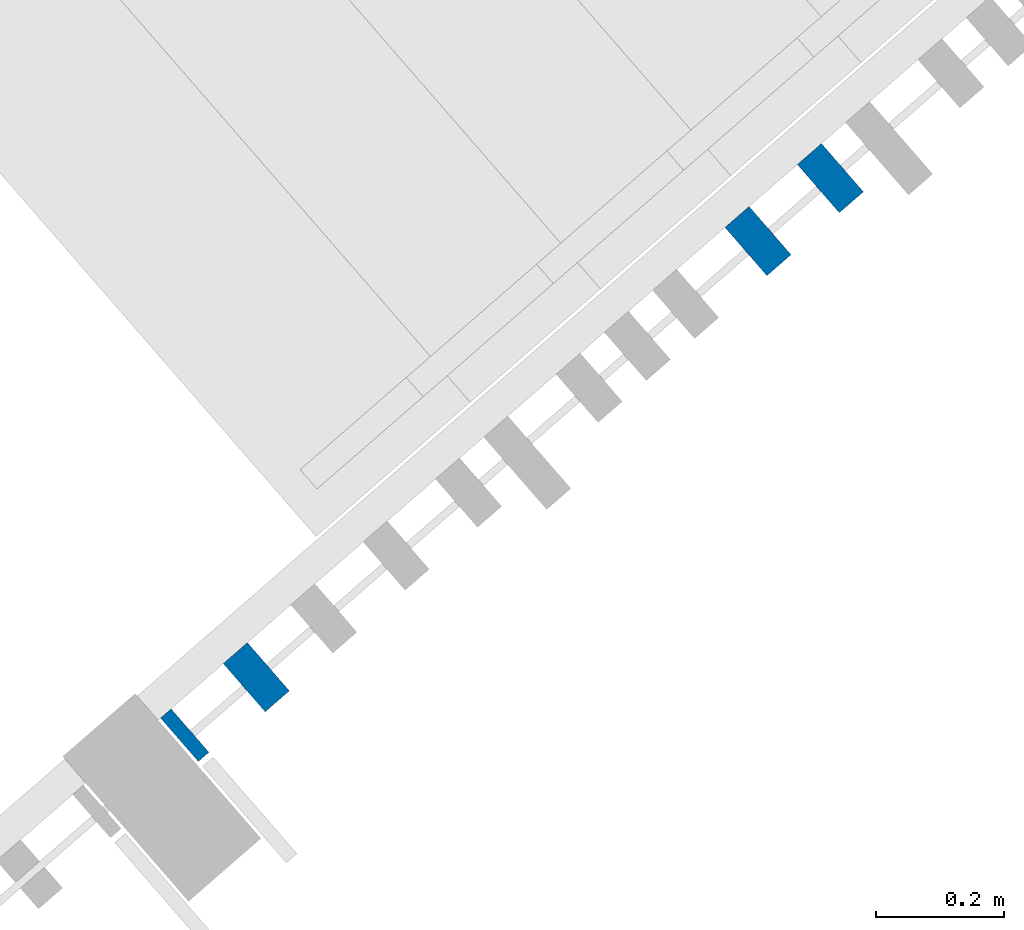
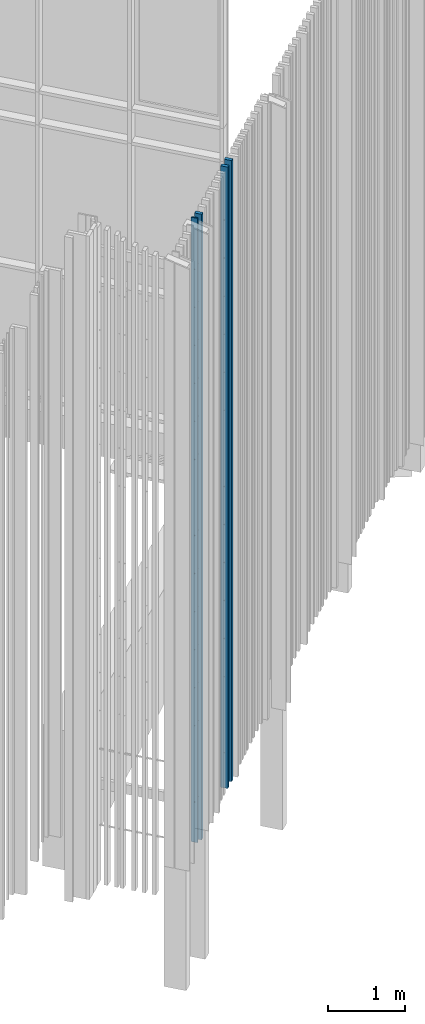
# One storey, part 272 of 390: 4 walls.
"""IFC2X3 building model written with IfcOpenShell, lengths in millimetres."""

from ifc_helpers import new_model, entity, si_unit, converted_unit, derived_unit, money_unit, direction, frame, origin_with_axes, place, context, subcontext, project, spatial, faceted_brep, material, type_object, element, save


model = new_model("IFC2X3")

# Units and contexts
model_context = context("Model", 3, precision=1e-05, world=origin_with_axes(), true_north=direction((0.0, 1.0)))
body_context = subcontext(model_context, "Body", "Model", "MODEL_VIEW")
ifc_project = project(units=[si_unit("LENGTHUNIT", "METRE", prefix="MILLI"), si_unit("AREAUNIT", "SQUARE_METRE"), si_unit("VOLUMEUNIT", "CUBIC_METRE"), converted_unit("PLANEANGLEUNIT", "DEGREE", entity("IfcPlaneAngleMeasure", 0.0174532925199), si_unit("PLANEANGLEUNIT", "RADIAN"), dimensions=[0, 0, 0, 0, 0, 0, 0]), si_unit("SOLIDANGLEUNIT", "STERADIAN"), money_unit("EUR"), converted_unit("TIMEUNIT", "Year", entity("IfcTimeMeasure", 31556926.0), si_unit("TIMEUNIT", "SECOND"), dimensions=[0, 0, 1, 0, 0, 0, 0]), si_unit("MASSUNIT", "GRAM", prefix="KILO"), si_unit("THERMODYNAMICTEMPERATUREUNIT", "DEGREE_CELSIUS"), si_unit("LUMINOUSINTENSITYUNIT", "LUMEN"), si_unit("ENERGYUNIT", "JOULE", prefix="MEGA"), derived_unit("THERMALCONDUCTANCEUNIT", [(si_unit("POWERUNIT", "WATT"), 1), (si_unit("LENGTHUNIT", "METRE"), -1), (si_unit("THERMODYNAMICTEMPERATUREUNIT", "KELVIN"), -1)]), derived_unit("SPECIFICHEATCAPACITYUNIT", [(si_unit("ENERGYUNIT", "JOULE"), 1), (si_unit("MASSUNIT", "GRAM", prefix="KILO"), -1), (si_unit("THERMODYNAMICTEMPERATUREUNIT", "KELVIN"), -1)]), derived_unit("MASSDENSITYUNIT", [(si_unit("MASSUNIT", "GRAM", prefix="KILO"), 1), (si_unit("VOLUMEUNIT", "CUBIC_METRE"), -1)])], contexts=[model_context])

# Site, building, storey
site_placement = place(None, origin_with_axes())
site = spatial("IfcSite", under=ifc_project, at=site_placement, Name="Site", CompositionType="ELEMENT")
building_placement = place(site_placement, origin_with_axes())
building = spatial("IfcBuilding", under=site, at=building_placement, Name="Building", CompositionType="ELEMENT")
storey_placement = place(building_placement, origin_with_axes())
storey = spatial("IfcBuildingStorey", under=building, at=storey_placement, Name="1 korrus", CompositionType="ELEMENT", Elevation=0.0)

# Walls
ifc_material = material(Name="GENEERILINE - VÄLINE VOODER")
wall_type = type_object("IfcWallType", Name="Puitfassaadi ribistik", PredefinedType="NOTDEFINED")
wall_1_placement = place(storey_placement, frame((174940.497912, 95017.3156575, -234.041166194), z_axis=(0.0, 0.0, 1.0), x_axis=(-0.754709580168, -0.656059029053, 0.0)))
element("IfcWall", 1, at=wall_1_placement, inside=storey, type_object=wall_type, material=ifc_material, Name="GENEERILINE - VÄLINE VOODER", context=body_context, shape_type="Brep", body=[
    faceted_brep([(25.0, 50.0, 9797.20870148), (25.0, -50.0, 9797.20870148), (25.0, -50.0, 0.0), (25.0, 50.0, 0.0), (25.0, 6.98609554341, 548.041166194), (25.0, -5.01390445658, 548.041166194), (25.0, -5.01390445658, 560.041166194), (25.0, 6.98609554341, 560.041166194), (25.0, 6.98609554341, 1748.04116619), (25.0, -5.01390445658, 1748.04116619), (25.0, -5.01390445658, 1760.04116619), (25.0, 6.98609554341, 1760.04116619), (25.0, 6.98609554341, 2348.04116619), (25.0, -5.01390445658, 2348.04116619), (25.0, -5.01390445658, 2360.04116619), (25.0, 6.98609554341, 2360.04116619), (25.0, 6.98609554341, 2948.04116619), (25.0, -5.01390445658, 2948.04116619), (25.0, -5.01390445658, 2960.04116619), (25.0, 6.98609554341, 2960.04116619), (25.0, 6.98609554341, 3548.04116619), (25.0, -5.01390445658, 3548.04116619), (25.0, -5.01390445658, 3560.04116619), (25.0, 6.98609554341, 3560.04116619), (25.0, 6.98609554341, 4148.04116619), (25.0, -5.01390445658, 4148.04116619), (25.0, -5.01390445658, 4160.04116619), (25.0, 6.98609554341, 4160.04116619), (25.0, 6.98609554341, 4748.04116619), (25.0, -5.01390445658, 4748.04116619), (25.0, -5.01390445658, 4760.04116619), (25.0, 6.98609554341, 4760.04116619), (25.0, 6.98609554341, 5948.04116619), (25.0, -5.01390445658, 5948.04116619), (25.0, -5.01390445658, 5960.04116619), (25.0, 6.98609554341, 5960.04116619), (25.0, 6.98609554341, 6548.04116619), (25.0, -5.01390445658, 6548.04116619), (25.0, -5.01390445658, 6560.04116619), (25.0, 6.98609554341, 6560.04116619), (25.0, 6.98609554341, 7148.04116619), (25.0, -5.01390445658, 7148.04116619), (25.0, -5.01390445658, 7160.04116619), (25.0, 6.98609554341, 7160.04116619), (25.0, 6.98609554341, 7748.04116619), (25.0, -5.01390445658, 7748.04116619), (25.0, -5.01390445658, 7760.04116619), (25.0, 6.98609554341, 7760.04116619), (25.0, 6.98609554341, 8348.04116619), (25.0, -5.01390445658, 8348.04116619), (25.0, -5.01390445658, 8360.04116619), (25.0, 6.98609554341, 8360.04116619), (25.0, 6.98609554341, 8948.04116619), (25.0, -5.01390445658, 8948.04116619), (25.0, -5.01390445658, 8960.04116619), (25.0, 6.98609554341, 8960.04116619), (-25.0, 50.0, 9797.20870148), (-25.0, -50.0, 9797.20870148), (-25.0, -50.0, 0.0), (-25.0, 50.0, 0.0), (-25.0, 6.98611942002, 548.041166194), (-25.0, -5.01388057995, 548.041166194), (-25.0, -5.01388057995, 560.041166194), (-25.0, 6.98611942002, 560.041166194), (-25.0, 6.98611942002, 1748.04116619), (-25.0, -5.01388057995, 1748.04116619), (-25.0, -5.01388057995, 1760.04116619), (-25.0, 6.98611942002, 1760.04116619), (-25.0, 6.98611942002, 2348.04116619), (-25.0, -5.01388057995, 2348.04116619), (-25.0, -5.01388057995, 2360.04116619), (-25.0, 6.98611942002, 2360.04116619), (-25.0, 6.98611942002, 2948.04116619), (-25.0, -5.01388057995, 2948.04116619), (-25.0, -5.01388057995, 2960.04116619), (-25.0, 6.98611942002, 2960.04116619), (-25.0, 6.98611942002, 3548.04116619), (-25.0, -5.01388057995, 3548.04116619), (-25.0, -5.01388057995, 3560.04116619), (-25.0, 6.98611942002, 3560.04116619), (-25.0, 6.98611942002, 4148.04116619), (-25.0, -5.01388057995, 4148.04116619), (-25.0, -5.01388057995, 4160.04116619), (-25.0, 6.98611942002, 4160.04116619), (-25.0, 6.98611942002, 4748.04116619), (-25.0, -5.01388057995, 4748.04116619), (-25.0, -5.01388057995, 4760.04116619), (-25.0, 6.98611942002, 4760.04116619), (-25.0, 6.98611942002, 5948.04116619), (-25.0, -5.01388057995, 5948.04116619), (-25.0, -5.01388057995, 5960.04116619), (-25.0, 6.98611942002, 5960.04116619), (-25.0, 6.98611942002, 6548.04116619), (-25.0, -5.01388057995, 6548.04116619), (-25.0, -5.01388057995, 6560.04116619), (-25.0, 6.98611942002, 6560.04116619), (-25.0, 6.98611942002, 7148.04116619), (-25.0, -5.01388057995, 7148.04116619), (-25.0, -5.01388057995, 7160.04116619), (-25.0, 6.98611942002, 7160.04116619), (-25.0, 6.98611942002, 7748.04116619), (-25.0, -5.01388057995, 7748.04116619), (-25.0, -5.01388057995, 7760.04116619), (-25.0, 6.98611942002, 7760.04116619), (-25.0, 6.98611942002, 8348.04116619), (-25.0, -5.01388057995, 8348.04116619), (-25.0, -5.01388057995, 8360.04116619), (-25.0, 6.98611942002, 8360.04116619), (-25.0, 6.98611942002, 8948.04116619), (-25.0, -5.01388057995, 8948.04116619), (-25.0, -5.01388057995, 8960.04116619), (-25.0, 6.98611942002, 8960.04116619)], [[[0, 1, 2, 3], [4, 5, 6, 7], [8, 9, 10, 11], [12, 13, 14, 15], [16, 17, 18, 19], [20, 21, 22, 23], [24, 25, 26, 27], [28, 29, 30, 31], [32, 33, 34, 35], [36, 37, 38, 39], [40, 41, 42, 43], [44, 45, 46, 47], [48, 49, 50, 51], [52, 53, 54, 55]], [[0, 56, 57, 1]], [[1, 57, 58, 2]], [[3, 2, 58, 59]], [[56, 0, 3, 59]], [[4, 60, 61, 5]], [[5, 61, 62, 6]], [[6, 62, 63, 7]], [[7, 63, 60, 4]], [[8, 64, 65, 9]], [[9, 65, 66, 10]], [[10, 66, 67, 11]], [[11, 67, 64, 8]], [[12, 68, 69, 13]], [[13, 69, 70, 14]], [[14, 70, 71, 15]], [[15, 71, 68, 12]], [[16, 72, 73, 17]], [[17, 73, 74, 18]], [[18, 74, 75, 19]], [[19, 75, 72, 16]], [[20, 76, 77, 21]], [[21, 77, 78, 22]], [[22, 78, 79, 23]], [[23, 79, 76, 20]], [[24, 80, 81, 25]], [[25, 81, 82, 26]], [[26, 82, 83, 27]], [[27, 83, 80, 24]], [[28, 84, 85, 29]], [[29, 85, 86, 30]], [[30, 86, 87, 31]], [[31, 87, 84, 28]], [[32, 88, 89, 33]], [[33, 89, 90, 34]], [[34, 90, 91, 35]], [[35, 91, 88, 32]], [[36, 92, 93, 37]], [[37, 93, 94, 38]], [[38, 94, 95, 39]], [[39, 95, 92, 36]], [[40, 96, 97, 41]], [[41, 97, 98, 42]], [[42, 98, 99, 43]], [[43, 99, 96, 40]], [[44, 100, 101, 45]], [[45, 101, 102, 46]], [[46, 102, 103, 47]], [[47, 103, 100, 44]], [[48, 104, 105, 49]], [[49, 105, 106, 50]], [[50, 106, 107, 51]], [[51, 107, 104, 48]], [[52, 108, 109, 53]], [[53, 109, 110, 54]], [[54, 110, 111, 55]], [[55, 111, 108, 52]], [[57, 56, 59, 58], [62, 61, 60, 63], [66, 65, 64, 67], [70, 69, 68, 71], [74, 73, 72, 75], [78, 77, 76, 79], [82, 81, 80, 83], [86, 85, 84, 87], [90, 89, 88, 91], [94, 93, 92, 95], [98, 97, 96, 99], [102, 101, 100, 103], [106, 105, 104, 107], [110, 109, 108, 111]]]),
])
wall_2_placement = place(storey_placement, frame((175053.70468, 95115.7243763, -224.344196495), z_axis=(0.0, 0.0, 1.0), x_axis=(-0.754709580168, -0.656059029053, 0.0)))
element("IfcWall", 2, at=wall_2_placement, inside=storey, type_object=wall_type, material=ifc_material, Name="GENEERILINE - VÄLINE VOODER", context=body_context, shape_type="Brep", body=[
    faceted_brep([(25.0, 49.9999999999, 9791.87473358), (25.0, -49.9999999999, 9791.87473358), (25.0, -49.9999999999, 0.0), (25.0, 49.9999999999, 0.0), (25.0, 6.98584770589, 538.344196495), (25.0, -5.01415229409, 538.344196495), (25.0, -5.01415229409, 550.344196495), (25.0, 6.98584770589, 550.344196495), (25.0, 6.98584770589, 1738.34419649), (25.0, -5.01415229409, 1738.34419649), (25.0, -5.01415229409, 1750.34419649), (25.0, 6.98584770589, 1750.34419649), (25.0, 6.98584770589, 2338.34419649), (25.0, -5.01415229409, 2338.34419649), (25.0, -5.01415229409, 2350.34419649), (25.0, 6.98584770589, 2350.34419649), (25.0, 6.98584770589, 2938.34419649), (25.0, -5.01415229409, 2938.34419649), (25.0, -5.01415229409, 2950.34419649), (25.0, 6.98584770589, 2950.34419649), (25.0, 6.98584770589, 3538.34419649), (25.0, -5.01415229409, 3538.34419649), (25.0, -5.01415229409, 3550.34419649), (25.0, 6.98584770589, 3550.34419649), (25.0, 6.98584770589, 4138.34419649), (25.0, -5.01415229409, 4138.34419649), (25.0, -5.01415229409, 4150.34419649), (25.0, 6.98584770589, 4150.34419649), (25.0, 6.98584770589, 4738.34419649), (25.0, -5.01415229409, 4738.34419649), (25.0, -5.01415229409, 4750.34419649), (25.0, 6.98584770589, 4750.34419649), (25.0, 6.98584770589, 5938.34419649), (25.0, -5.01415229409, 5938.34419649), (25.0, -5.01415229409, 5950.34419649), (25.0, 6.98584770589, 5950.34419649), (25.0, 6.98584770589, 6538.34419649), (25.0, -5.01415229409, 6538.34419649), (25.0, -5.01415229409, 6550.34419649), (25.0, 6.98584770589, 6550.34419649), (25.0, 6.98584770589, 7138.34419649), (25.0, -5.01415229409, 7138.34419649), (25.0, -5.01415229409, 7150.34419649), (25.0, 6.98584770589, 7150.34419649), (25.0, 6.98584770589, 7738.34419649), (25.0, -5.01415229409, 7738.34419649), (25.0, -5.01415229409, 7750.34419649), (25.0, 6.98584770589, 7750.34419649), (25.0, 6.98584770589, 8338.34419649), (25.0, -5.01415229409, 8338.34419649), (25.0, -5.01415229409, 8350.34419649), (25.0, 6.98584770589, 8350.34419649), (25.0, 6.98584770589, 8938.34419649), (25.0, -5.01415229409, 8938.34419649), (25.0, -5.01415229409, 8950.34419649), (25.0, 6.98584770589, 8950.34419649), (-25.0, 49.9999999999, 9791.87473358), (-25.0, -49.9999999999, 9791.87473358), (-25.0, -49.9999999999, 0.0), (-25.0, 49.9999999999, 0.0), (-25.0, 6.9858715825, 538.344196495), (-25.0, -5.01412841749, 538.344196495), (-25.0, -5.01412841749, 550.344196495), (-25.0, 6.9858715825, 550.344196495), (-25.0, 6.9858715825, 1738.34419649), (-25.0, -5.01412841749, 1738.34419649), (-25.0, -5.01412841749, 1750.34419649), (-25.0, 6.9858715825, 1750.34419649), (-25.0, 6.9858715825, 2338.34419649), (-25.0, -5.01412841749, 2338.34419649), (-25.0, -5.01412841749, 2350.34419649), (-25.0, 6.9858715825, 2350.34419649), (-25.0, 6.9858715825, 2938.34419649), (-25.0, -5.01412841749, 2938.34419649), (-25.0, -5.01412841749, 2950.34419649), (-25.0, 6.9858715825, 2950.34419649), (-25.0, 6.9858715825, 3538.34419649), (-25.0, -5.01412841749, 3538.34419649), (-25.0, -5.01412841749, 3550.34419649), (-25.0, 6.9858715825, 3550.34419649), (-25.0, 6.9858715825, 4138.34419649), (-25.0, -5.01412841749, 4138.34419649), (-25.0, -5.01412841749, 4150.34419649), (-25.0, 6.9858715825, 4150.34419649), (-25.0, 6.9858715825, 4738.34419649), (-25.0, -5.01412841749, 4738.34419649), (-25.0, -5.01412841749, 4750.34419649), (-25.0, 6.9858715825, 4750.34419649), (-25.0, 6.9858715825, 5938.34419649), (-25.0, -5.01412841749, 5938.34419649), (-25.0, -5.01412841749, 5950.34419649), (-25.0, 6.9858715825, 5950.34419649), (-25.0, 6.9858715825, 6538.34419649), (-25.0, -5.01412841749, 6538.34419649), (-25.0, -5.01412841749, 6550.34419649), (-25.0, 6.9858715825, 6550.34419649), (-25.0, 6.9858715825, 7138.34419649), (-25.0, -5.01412841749, 7138.34419649), (-25.0, -5.01412841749, 7150.34419649), (-25.0, 6.9858715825, 7150.34419649), (-25.0, 6.9858715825, 7738.34419649), (-25.0, -5.01412841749, 7738.34419649), (-25.0, -5.01412841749, 7750.34419649), (-25.0, 6.9858715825, 7750.34419649), (-25.0, 6.9858715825, 8338.34419649), (-25.0, -5.01412841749, 8338.34419649), (-25.0, -5.01412841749, 8350.34419649), (-25.0, 6.9858715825, 8350.34419649), (-25.0, 6.9858715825, 8938.34419649), (-25.0, -5.01412841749, 8938.34419649), (-25.0, -5.01412841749, 8950.34419649), (-25.0, 6.9858715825, 8950.34419649)], [[[0, 1, 2, 3], [4, 5, 6, 7], [8, 9, 10, 11], [12, 13, 14, 15], [16, 17, 18, 19], [20, 21, 22, 23], [24, 25, 26, 27], [28, 29, 30, 31], [32, 33, 34, 35], [36, 37, 38, 39], [40, 41, 42, 43], [44, 45, 46, 47], [48, 49, 50, 51], [52, 53, 54, 55]], [[0, 56, 57, 1]], [[1, 57, 58, 2]], [[3, 2, 58, 59]], [[56, 0, 3, 59]], [[4, 60, 61, 5]], [[5, 61, 62, 6]], [[6, 62, 63, 7]], [[7, 63, 60, 4]], [[8, 64, 65, 9]], [[9, 65, 66, 10]], [[10, 66, 67, 11]], [[11, 67, 64, 8]], [[12, 68, 69, 13]], [[13, 69, 70, 14]], [[14, 70, 71, 15]], [[15, 71, 68, 12]], [[16, 72, 73, 17]], [[17, 73, 74, 18]], [[18, 74, 75, 19]], [[19, 75, 72, 16]], [[20, 76, 77, 21]], [[21, 77, 78, 22]], [[22, 78, 79, 23]], [[23, 79, 76, 20]], [[24, 80, 81, 25]], [[25, 81, 82, 26]], [[26, 82, 83, 27]], [[27, 83, 80, 24]], [[28, 84, 85, 29]], [[29, 85, 86, 30]], [[30, 86, 87, 31]], [[31, 87, 84, 28]], [[32, 88, 89, 33]], [[33, 89, 90, 34]], [[34, 90, 91, 35]], [[35, 91, 88, 32]], [[36, 92, 93, 37]], [[37, 93, 94, 38]], [[38, 94, 95, 39]], [[39, 95, 92, 36]], [[40, 96, 97, 41]], [[41, 97, 98, 42]], [[42, 98, 99, 43]], [[43, 99, 96, 40]], [[44, 100, 101, 45]], [[45, 101, 102, 46]], [[46, 102, 103, 47]], [[47, 103, 100, 44]], [[48, 104, 105, 49]], [[49, 105, 106, 50]], [[50, 106, 107, 51]], [[51, 107, 104, 48]], [[52, 108, 109, 53]], [[53, 109, 110, 54]], [[54, 110, 111, 55]], [[55, 111, 108, 52]], [[57, 56, 59, 58], [62, 61, 60, 63], [66, 65, 64, 67], [70, 69, 68, 71], [74, 73, 72, 75], [78, 77, 76, 79], [82, 81, 80, 83], [86, 85, 84, 87], [90, 89, 88, 91], [94, 93, 92, 95], [98, 97, 96, 99], [102, 101, 100, 103], [106, 105, 104, 107], [110, 109, 108, 111]]]),
])
wall_3_placement = place(storey_placement, frame((174155.599056, 94335.0152907, -355.253287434), z_axis=(0.0, 0.0, 1.0), x_axis=(-0.754709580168, -0.656059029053, 0.0)))
element("IfcWall", 3, at=wall_3_placement, inside=storey, type_object=wall_type, material=ifc_material, Name="GENEERILINE - VÄLINE VOODER", context=body_context, shape_type="Brep", body=[
    faceted_brep([(25.0, 50.0, 9863.88330021), (25.0, -50.0, 9863.88330021), (25.0, -50.0, 0.0), (25.0, 50.0, 0.0), (25.0, 6.98695664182, 669.253287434), (25.0, -5.01304335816, 669.253287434), (25.0, -5.01304335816, 681.253287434), (25.0, 6.98695664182, 681.253287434), (25.0, 6.98695664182, 1869.25328743), (25.0, -5.01304335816, 1869.25328743), (25.0, -5.01304335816, 1881.25328743), (25.0, 6.98695664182, 1881.25328743), (25.0, 6.98695664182, 2469.25328743), (25.0, -5.01304335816, 2469.25328743), (25.0, -5.01304335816, 2481.25328743), (25.0, 6.98695664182, 2481.25328743), (25.0, 6.98695664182, 3069.25328743), (25.0, -5.01304335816, 3069.25328743), (25.0, -5.01304335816, 3081.25328743), (25.0, 6.98695664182, 3081.25328743), (25.0, 6.98695664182, 3669.25328743), (25.0, -5.01304335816, 3669.25328743), (25.0, -5.01304335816, 3681.25328743), (25.0, 6.98695664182, 3681.25328743), (25.0, 6.98695664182, 4269.25328743), (25.0, -5.01304335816, 4269.25328743), (25.0, -5.01304335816, 4281.25328743), (25.0, 6.98695664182, 4281.25328743), (25.0, 6.98695664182, 4869.25328743), (25.0, -5.01304335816, 4869.25328743), (25.0, -5.01304335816, 4881.25328743), (25.0, 6.98695664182, 4881.25328743), (25.0, 6.98695664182, 6069.25328743), (25.0, -5.01304335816, 6069.25328743), (25.0, -5.01304335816, 6081.25328743), (25.0, 6.98695664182, 6081.25328743), (25.0, 6.98695664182, 6669.25328743), (25.0, -5.01304335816, 6669.25328743), (25.0, -5.01304335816, 6681.25328743), (25.0, 6.98695664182, 6681.25328743), (25.0, 6.98695664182, 7269.25328743), (25.0, -5.01304335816, 7269.25328743), (25.0, -5.01304335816, 7281.25328743), (25.0, 6.98695664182, 7281.25328743), (25.0, 6.98695664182, 7869.25328743), (25.0, -5.01304335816, 7869.25328743), (25.0, -5.01304335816, 7881.25328743), (25.0, 6.98695664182, 7881.25328743), (25.0, 6.98695664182, 8469.25328743), (25.0, -5.01304335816, 8469.25328743), (25.0, -5.01304335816, 8481.25328743), (25.0, 6.98695664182, 8481.25328743), (25.0, 6.98695664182, 9069.25328743), (25.0, -5.01304335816, 9069.25328743), (25.0, -5.01304335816, 9081.25328743), (25.0, 6.98695664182, 9081.25328743), (-25.0, 50.0, 9863.88330021), (-25.0, -50.0, 9863.88330021), (-25.0, -50.0, 0.0), (-25.0, 50.0, 0.0), (-25.0, 6.98698051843, 669.253287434), (-25.0, -5.01301948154, 669.253287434), (-25.0, -5.01301948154, 681.253287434), (-25.0, 6.98698051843, 681.253287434), (-25.0, 6.98698051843, 1869.25328743), (-25.0, -5.01301948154, 1869.25328743), (-25.0, -5.01301948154, 1881.25328743), (-25.0, 6.98698051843, 1881.25328743), (-25.0, 6.98698051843, 2469.25328743), (-25.0, -5.01301948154, 2469.25328743), (-25.0, -5.01301948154, 2481.25328743), (-25.0, 6.98698051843, 2481.25328743), (-25.0, 6.98698051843, 3069.25328743), (-25.0, -5.01301948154, 3069.25328743), (-25.0, -5.01301948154, 3081.25328743), (-25.0, 6.98698051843, 3081.25328743), (-25.0, 6.98698051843, 3669.25328743), (-25.0, -5.01301948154, 3669.25328743), (-25.0, -5.01301948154, 3681.25328743), (-25.0, 6.98698051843, 3681.25328743), (-25.0, 6.98698051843, 4269.25328743), (-25.0, -5.01301948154, 4269.25328743), (-25.0, -5.01301948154, 4281.25328743), (-25.0, 6.98698051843, 4281.25328743), (-25.0, 6.98698051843, 4869.25328743), (-25.0, -5.01301948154, 4869.25328743), (-25.0, -5.01301948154, 4881.25328743), (-25.0, 6.98698051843, 4881.25328743), (-25.0, 6.98698051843, 6069.25328743), (-25.0, -5.01301948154, 6069.25328743), (-25.0, -5.01301948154, 6081.25328743), (-25.0, 6.98698051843, 6081.25328743), (-25.0, 6.98698051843, 6669.25328743), (-25.0, -5.01301948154, 6669.25328743), (-25.0, -5.01301948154, 6681.25328743), (-25.0, 6.98698051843, 6681.25328743), (-25.0, 6.98698051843, 7269.25328743), (-25.0, -5.01301948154, 7269.25328743), (-25.0, -5.01301948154, 7281.25328743), (-25.0, 6.98698051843, 7281.25328743), (-25.0, 6.98698051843, 7869.25328743), (-25.0, -5.01301948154, 7869.25328743), (-25.0, -5.01301948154, 7881.25328743), (-25.0, 6.98698051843, 7881.25328743), (-25.0, 6.98698051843, 8469.25328743), (-25.0, -5.01301948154, 8469.25328743), (-25.0, -5.01301948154, 8481.25328743), (-25.0, 6.98698051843, 8481.25328743), (-25.0, 6.98698051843, 9069.25328743), (-25.0, -5.01301948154, 9069.25328743), (-25.0, -5.01301948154, 9081.25328743), (-25.0, 6.98698051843, 9081.25328743)], [[[0, 1, 2, 3], [4, 5, 6, 7], [8, 9, 10, 11], [12, 13, 14, 15], [16, 17, 18, 19], [20, 21, 22, 23], [24, 25, 26, 27], [28, 29, 30, 31], [32, 33, 34, 35], [36, 37, 38, 39], [40, 41, 42, 43], [44, 45, 46, 47], [48, 49, 50, 51], [52, 53, 54, 55]], [[0, 56, 57, 1]], [[1, 57, 58, 2]], [[3, 2, 58, 59]], [[56, 0, 3, 59]], [[4, 60, 61, 5]], [[5, 61, 62, 6]], [[6, 62, 63, 7]], [[7, 63, 60, 4]], [[8, 64, 65, 9]], [[9, 65, 66, 10]], [[10, 66, 67, 11]], [[11, 67, 64, 8]], [[12, 68, 69, 13]], [[13, 69, 70, 14]], [[14, 70, 71, 15]], [[15, 71, 68, 12]], [[16, 72, 73, 17]], [[17, 73, 74, 18]], [[18, 74, 75, 19]], [[19, 75, 72, 16]], [[20, 76, 77, 21]], [[21, 77, 78, 22]], [[22, 78, 79, 23]], [[23, 79, 76, 20]], [[24, 80, 81, 25]], [[25, 81, 82, 26]], [[26, 82, 83, 27]], [[27, 83, 80, 24]], [[28, 84, 85, 29]], [[29, 85, 86, 30]], [[30, 86, 87, 31]], [[31, 87, 84, 28]], [[32, 88, 89, 33]], [[33, 89, 90, 34]], [[34, 90, 91, 35]], [[35, 91, 88, 32]], [[36, 92, 93, 37]], [[37, 93, 94, 38]], [[38, 94, 95, 39]], [[39, 95, 92, 36]], [[40, 96, 97, 41]], [[41, 97, 98, 42]], [[42, 98, 99, 43]], [[43, 99, 96, 40]], [[44, 100, 101, 45]], [[45, 101, 102, 46]], [[46, 102, 103, 47]], [[47, 103, 100, 44]], [[48, 104, 105, 49]], [[49, 105, 106, 50]], [[50, 106, 107, 51]], [[51, 107, 104, 48]], [[52, 108, 109, 53]], [[53, 109, 110, 54]], [[54, 110, 111, 55]], [[55, 111, 108, 52]], [[57, 56, 59, 58], [62, 61, 60, 63], [66, 65, 64, 67], [70, 69, 68, 71], [74, 73, 72, 75], [78, 77, 76, 79], [82, 81, 80, 83], [86, 85, 84, 87], [90, 89, 88, 91], [94, 93, 92, 95], [98, 97, 96, 99], [102, 101, 100, 103], [106, 105, 104, 107], [110, 109, 108, 111]]]),
])
wall_4_placement = place(storey_placement, frame((174043.634306, 94244.3235561, -316.465408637), z_axis=(0.0, 0.0, 1.0), x_axis=(-0.754709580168, -0.656059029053, 0.0)))
element("IfcWall", 4, at=wall_4_placement, inside=storey, type_object=wall_type, material=ifc_material, Name="GENEERILINE - VÄLINE VOODER", context=body_context, shape_type="Brep", body=[
    faceted_brep([(11.0000005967, 45.0000090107, 9844.14191861), (11.0000005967, -45.0000090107, 9844.14191861), (11.0000005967, -45.0000090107, 0.0), (11.0000005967, 45.0000090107, 0.0), (11.0000278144, 11.9964585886, 630.465408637), (11.0000220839, -0.00354141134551, 630.465408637), (11.0000220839, -0.00354141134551, 642.465408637), (11.0000278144, 11.9964585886, 642.465408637), (11.0000278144, 11.9964585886, 1830.46540864), (11.0000220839, -0.00354141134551, 1830.46540864), (11.0000220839, -0.00354141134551, 1842.46540864), (11.0000278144, 11.9964585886, 1842.46540864), (11.0000278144, 11.9964585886, 2430.46540864), (11.0000220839, -0.00354141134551, 2430.46540864), (11.0000220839, -0.00354141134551, 2442.46540864), (11.0000278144, 11.9964585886, 2442.46540864), (11.0000278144, 11.9964585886, 3030.46540864), (11.0000220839, -0.00354141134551, 3030.46540864), (11.0000220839, -0.00354141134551, 3042.46540864), (11.0000278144, 11.9964585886, 3042.46540864), (11.0000278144, 11.9964585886, 3630.46540864), (11.0000220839, -0.00354141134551, 3630.46540864), (11.0000220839, -0.00354141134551, 3642.46540864), (11.0000278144, 11.9964585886, 3642.46540864), (11.0000278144, 11.9964585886, 4230.46540864), (11.0000220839, -0.00354141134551, 4230.46540864), (11.0000220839, -0.00354141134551, 4242.46540864), (11.0000278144, 11.9964585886, 4242.46540864), (11.0000278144, 11.9964585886, 4830.46540864), (11.0000220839, -0.00354141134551, 4830.46540864), (11.0000220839, -0.00354141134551, 4842.46540864), (11.0000278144, 11.9964585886, 4842.46540864), (11.0000278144, 11.9964585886, 6030.46540864), (11.0000220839, -0.00354141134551, 6030.46540864), (11.0000220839, -0.00354141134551, 6042.46540864), (11.0000278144, 11.9964585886, 6042.46540864), (11.0000278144, 11.9964585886, 6630.46540864), (11.0000220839, -0.00354141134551, 6630.46540864), (11.0000220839, -0.00354141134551, 6642.46540864), (11.0000278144, 11.9964585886, 6642.46540864), (11.0000278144, 11.9964585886, 7230.46540864), (11.0000220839, -0.00354141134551, 7230.46540864), (11.0000220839, -0.00354141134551, 7242.46540864), (11.0000278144, 11.9964585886, 7242.46540864), (11.0000278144, 11.9964585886, 7830.46540864), (11.0000220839, -0.00354141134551, 7830.46540864), (11.0000220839, -0.00354141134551, 7842.46540864), (11.0000278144, 11.9964585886, 7842.46540864), (11.0000278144, 11.9964585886, 8430.46540864), (11.0000220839, -0.00354141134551, 8430.46540864), (11.0000220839, -0.00354141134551, 8442.46540864), (11.0000278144, 11.9964585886, 8442.46540864), (11.0000278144, 11.9964585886, 9030.46540864), (11.0000220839, -0.00354141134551, 9030.46540864), (11.0000220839, -0.00354141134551, 9042.46540864), (11.0000278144, 11.9964585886, 9042.46540864), (-11.0000005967, 45.0000090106, 9844.14191861), (-11.0000005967, -45.0000090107, 9844.14191861), (-11.0000005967, -45.0000090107, 0.0), (-11.0000005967, 45.0000090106, 0.0), (-11.0000005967, 11.9964690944, 630.465408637), (-11.0000005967, -0.00353090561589, 630.465408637), (-11.0000005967, -0.00353090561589, 642.465408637), (-11.0000005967, 11.9964690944, 642.465408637), (-11.0000005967, 11.9964690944, 1830.46540864), (-11.0000005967, -0.00353090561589, 1830.46540864), (-11.0000005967, -0.00353090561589, 1842.46540864), (-11.0000005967, 11.9964690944, 1842.46540864), (-11.0000005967, 11.9964690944, 2430.46540864), (-11.0000005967, -0.00353090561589, 2430.46540864), (-11.0000005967, -0.00353090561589, 2442.46540864), (-11.0000005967, 11.9964690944, 2442.46540864), (-11.0000005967, 11.9964690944, 3030.46540864), (-11.0000005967, -0.00353090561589, 3030.46540864), (-11.0000005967, -0.00353090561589, 3042.46540864), (-11.0000005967, 11.9964690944, 3042.46540864), (-11.0000005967, 11.9964690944, 3630.46540864), (-11.0000005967, -0.00353090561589, 3630.46540864), (-11.0000005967, -0.00353090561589, 3642.46540864), (-11.0000005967, 11.9964690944, 3642.46540864), (-11.0000005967, 11.9964690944, 4230.46540864), (-11.0000005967, -0.00353090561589, 4230.46540864), (-11.0000005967, -0.00353090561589, 4242.46540864), (-11.0000005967, 11.9964690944, 4242.46540864), (-11.0000005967, 11.9964690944, 4830.46540864), (-11.0000005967, -0.00353090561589, 4830.46540864), (-11.0000005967, -0.00353090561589, 4842.46540864), (-11.0000005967, 11.9964690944, 4842.46540864), (-11.0000005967, 11.9964690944, 6030.46540864), (-11.0000005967, -0.00353090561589, 6030.46540864), (-11.0000005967, -0.00353090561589, 6042.46540864), (-11.0000005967, 11.9964690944, 6042.46540864), (-11.0000005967, 11.9964690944, 6630.46540864), (-11.0000005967, -0.00353090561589, 6630.46540864), (-11.0000005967, -0.00353090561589, 6642.46540864), (-11.0000005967, 11.9964690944, 6642.46540864), (-11.0000005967, 11.9964690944, 7230.46540864), (-11.0000005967, -0.00353090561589, 7230.46540864), (-11.0000005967, -0.00353090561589, 7242.46540864), (-11.0000005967, 11.9964690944, 7242.46540864), (-11.0000005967, 11.9964690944, 7830.46540864), (-11.0000005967, -0.00353090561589, 7830.46540864), (-11.0000005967, -0.00353090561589, 7842.46540864), (-11.0000005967, 11.9964690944, 7842.46540864), (-11.0000005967, 11.9964690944, 8430.46540864), (-11.0000005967, -0.00353090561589, 8430.46540864), (-11.0000005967, -0.00353090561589, 8442.46540864), (-11.0000005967, 11.9964690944, 8442.46540864), (-11.0000005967, 11.9964690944, 9030.46540864), (-11.0000005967, -0.00353090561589, 9030.46540864), (-11.0000005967, -0.00353090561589, 9042.46540864), (-11.0000005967, 11.9964690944, 9042.46540864)], [[[0, 1, 2, 3], [4, 5, 6, 7], [8, 9, 10, 11], [12, 13, 14, 15], [16, 17, 18, 19], [20, 21, 22, 23], [24, 25, 26, 27], [28, 29, 30, 31], [32, 33, 34, 35], [36, 37, 38, 39], [40, 41, 42, 43], [44, 45, 46, 47], [48, 49, 50, 51], [52, 53, 54, 55]], [[0, 56, 57, 1]], [[1, 57, 58, 2]], [[3, 2, 58, 59]], [[56, 0, 3, 59]], [[4, 60, 61, 5]], [[5, 61, 62, 6]], [[6, 62, 63, 7]], [[7, 63, 60, 4]], [[8, 64, 65, 9]], [[9, 65, 66, 10]], [[10, 66, 67, 11]], [[11, 67, 64, 8]], [[12, 68, 69, 13]], [[13, 69, 70, 14]], [[14, 70, 71, 15]], [[15, 71, 68, 12]], [[16, 72, 73, 17]], [[17, 73, 74, 18]], [[18, 74, 75, 19]], [[19, 75, 72, 16]], [[20, 76, 77, 21]], [[21, 77, 78, 22]], [[22, 78, 79, 23]], [[23, 79, 76, 20]], [[24, 80, 81, 25]], [[25, 81, 82, 26]], [[26, 82, 83, 27]], [[27, 83, 80, 24]], [[28, 84, 85, 29]], [[29, 85, 86, 30]], [[30, 86, 87, 31]], [[31, 87, 84, 28]], [[32, 88, 89, 33]], [[33, 89, 90, 34]], [[34, 90, 91, 35]], [[35, 91, 88, 32]], [[36, 92, 93, 37]], [[37, 93, 94, 38]], [[38, 94, 95, 39]], [[39, 95, 92, 36]], [[40, 96, 97, 41]], [[41, 97, 98, 42]], [[42, 98, 99, 43]], [[43, 99, 96, 40]], [[44, 100, 101, 45]], [[45, 101, 102, 46]], [[46, 102, 103, 47]], [[47, 103, 100, 44]], [[48, 104, 105, 49]], [[49, 105, 106, 50]], [[50, 106, 107, 51]], [[51, 107, 104, 48]], [[52, 108, 109, 53]], [[53, 109, 110, 54]], [[54, 110, 111, 55]], [[55, 111, 108, 52]], [[57, 56, 59, 58], [62, 61, 60, 63], [66, 65, 64, 67], [70, 69, 68, 71], [74, 73, 72, 75], [78, 77, 76, 79], [82, 81, 80, 83], [86, 85, 84, 87], [90, 89, 88, 91], [94, 93, 92, 95], [98, 97, 96, 99], [102, 101, 100, 103], [106, 105, 104, 107], [110, 109, 108, 111]]]),
])

save(model, "model.ifc")
